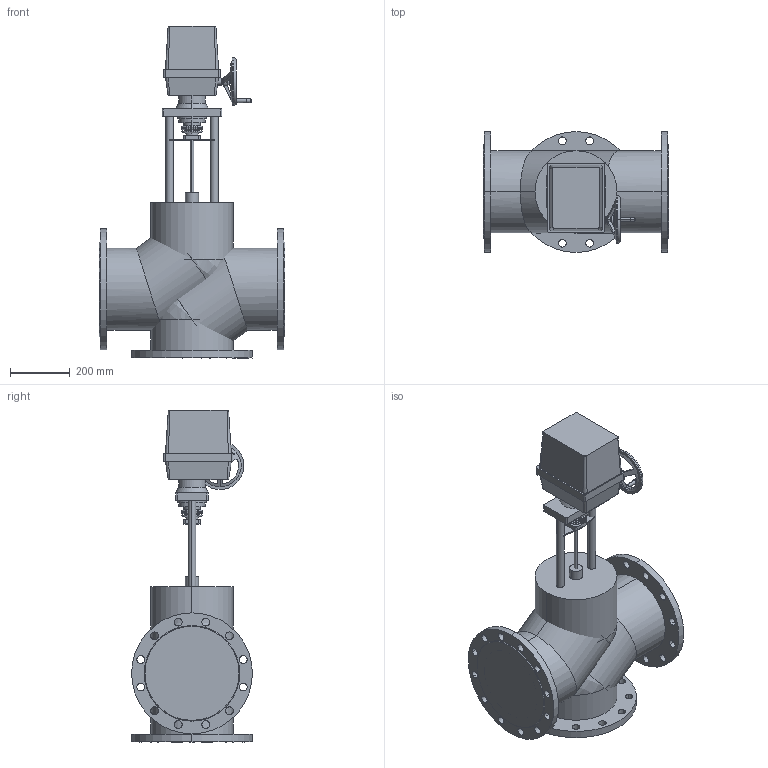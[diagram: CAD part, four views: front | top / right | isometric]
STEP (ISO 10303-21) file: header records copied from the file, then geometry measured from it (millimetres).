
FILE_DESCRIPTION(/* description */ (''),/* implementation_level */ '2;1');
FILE_NAME(/* name */ 'ТРК DN250 PN 1.6 МПа Regada ST2',/* time_stamp */ '2026-07-14T23:15:28+03:00',/* author */ (''),/* organization */ (''),/* preprocessor_version */ 'ST-DEVELOPER v20',/* originating_system */ '',/* authorisation */ '');
FILE_SCHEMA (('AP242_MANAGED_MODEL_BASED_3D_ENGINEERING_MIM_LF { 1 0 10303 442 1 1 4 }'));
Length unit declared in the file: millimetre
Products named in the file (13): TopLevelAssembly; Выдавливание; Модификатор; Модификатор_1; Выдавливание_
1; Выдавливание_
2; Вращение; Выдавливание_
3; Выдавливание_
4; Привод_Regada ST 2; Переход; Объемная геометрия 
присоединена; Объемная геометрия 
присоединена_1
Assembly tree (12 placements, depth 2):
  TopLevelAssembly
    Выдавливание
    Модификатор
    Модификатор_1
    Выдавливание_
1
    Выдавливание_
2
    Вращение
    Выдавливание_
3
    Выдавливание_
4
    Привод_Regada ST 2
    Переход
    Объемная геометрия 
присоединена
    Объемная геометрия 
присоединена_1
Bounding box: 622 x 405 x 1112 mm (x, y, z)
Volume: 92902141 mm3; surface area: 3364858.6 mm2
Topology: 27 solids, 27 shells, 317 faces, 725 edges, 450 vertices
Faces by surface type: cylinder 154, plane 103, bspline 56, cone 4
Entity records: 10547 total; most frequent: CARTESIAN_POINT 2627, DIRECTION 1652, ORIENTED_EDGE 1430, EDGE_CURVE 715, AXIS2_PLACEMENT_3D 675, VERTEX_POINT 450, EDGE_LOOP 399, CIRCLE 381
